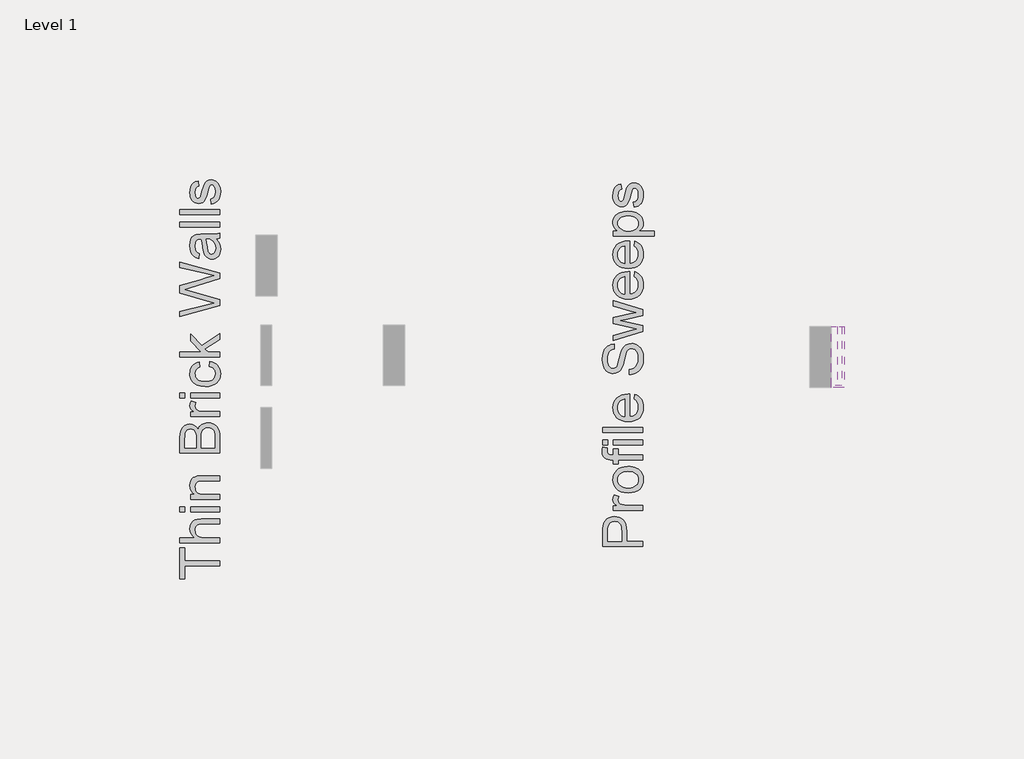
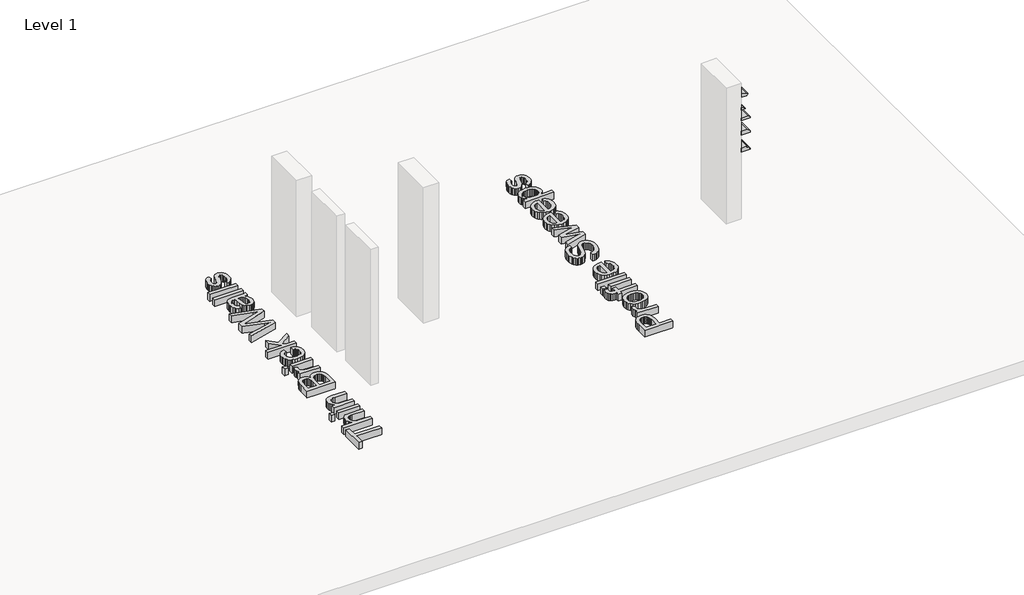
# One storey, part 2 of 2: 7 proxies.
"""IFC4 building model written with IfcOpenShell, lengths in millimetres."""

from ifc_helpers import new_model, si_unit, point, frame, frame_2d, origin, origin_with_axes, place, context, project, spatial, polyline, circle_curve, trimmed, segment, composite_curve, outline, extrude, element, save

model = new_model("IFC4")

# Units and contexts
model_context = context("Model", 3, world=origin())
ifc_project = project(units=[si_unit("LENGTHUNIT", "METRE", prefix="MILLI")], contexts=[model_context])

# Site, building, storey
site = spatial("IfcSite", under=ifc_project)
building = spatial("IfcBuilding", under=site)
storey = spatial("IfcBuildingStorey", under=building, Name="Level 1", Elevation=0.0)

# Proxies
placement = place(None, origin())
element("IfcBuildingElementProxy", 1, Name="Wall_Sweep_Sloped-Sill-Unit_SL2_Glen-Gery", ObjectType="Wall_Sweep_Sloped-Sill-Unit_SL2_Glen-Gery", at=placement, inside=storey, context=model_context, shape_type="SweptSolid", body=[
    extrude(outline(composite_curve([segment(polyline([(2711.45, -7149.5312596), (2711.45, -7020.9437596)]), True, "CONTINUOUS"), segment(trimmed(circle_curve(frame_2d((2738.4374742, -7020.9810586)), 26.9875), [point((2711.45, -7020.9437596))], [point((2764.6582211, -7014.5937596))], False, "CARTESIAN"), True, "CONTINUOUS"), segment(polyline([(2764.6582211, -7014.5937596), (2794.0, -7149.5312596), (2711.45, -7149.5312596)]), True, "CONTINUOUS")], self_intersect=False)), frame((0.0, 14330.8088679, 0.0), z_axis=(0.0, 1.0, 0.0), x_axis=(0.0, 0.0, 1.0)), (0.0, 0.0, 1.0), 889.0),
])
element("IfcBuildingElementProxy", 2, Name="Wall_Sweep_Water-Table-Unit_W2-S_Glen-Gery", ObjectType="Wall_Sweep_Water-Table-Unit_W2-S_Glen-Gery", at=placement, inside=storey, context=model_context, shape_type="SweptSolid", body=[
    extrude(outline(composite_curve([segment(polyline([(2495.55, -7149.5312596), (2438.4, -7149.5312596), (2438.4, -7057.4562596), (2457.45, -7057.4562596)]), True, "CONTINUOUS"), segment(trimmed(circle_curve(frame_2d((2495.55, -7057.4562596)), 38.1), [point((2457.45, -7057.4562596))], [point((2495.55, -7095.5562596))], True, "CARTESIAN"), True, "CONTINUOUS"), segment(polyline([(2495.55, -7095.5562596), (2495.55, -7149.5312596)]), True, "CONTINUOUS")], self_intersect=False)), frame((0.0, 14305.4088679, 0.0), z_axis=(0.0, 1.0, 0.0), x_axis=(0.0, 0.0, 1.0)), (0.0, 0.0, 1.0), 914.4),
])
element("IfcBuildingElementProxy", 3, Name="Wall_Sweep_Water-Table-Unit_W3-H_Glen-Gery", ObjectType="Wall_Sweep_Water-Table-Unit_W3-H_Glen-Gery", at=placement, inside=storey, context=model_context, shape_type="SweptSolid", body=[
    extrude(outline(polyline([(2266.95, -7149.5312596), (2209.8, -7149.5312596), (2209.8, -6955.8562596), (2228.85, -6955.8562596), (2266.95, -6993.9562596), (2266.95, -7149.5312596)])), frame((0.0, 14305.4088679, 0.0), z_axis=(0.0, 1.0, 0.0), x_axis=(0.0, 0.0, 1.0)), (0.0, 0.0, 1.0), 914.4),
])
element("IfcBuildingElementProxy", 4, Name="Wall_Sweep_Water-Table-Unit_W9-R_Glen-Gery", ObjectType="Wall_Sweep_Water-Table-Unit_W9-R_Glen-Gery", at=placement, inside=storey, context=model_context, shape_type="SweptSolid", body=[
    extrude(outline(polyline([(1971.675, -7149.5312596), (1879.6, -7149.5312596), (1879.6, -6955.8562596), (1911.35, -6955.8562596), (1971.675, -7016.1812596), (1971.675, -7149.5312596)])), frame((0.0, 14305.4088679, 0.0), z_axis=(0.0, 1.0, 0.0), x_axis=(0.0, 0.0, 1.0)), (0.0, 0.0, 1.0), 914.4),
])
element("IfcBuildingElementProxy", 5, Name="Wall_Sweep_Water-Table-Unit_W12-R_Glen-Gery", ObjectType="Wall_Sweep_Water-Table-Unit_W12-R_Glen-Gery", at=placement, inside=storey, context=model_context, shape_type="SweptSolid", body=[
    extrude(outline(composite_curve([segment(polyline([(1590.675, -7149.5312596), (1498.6, -7149.5312596), (1498.6, -6955.8562596), (1517.65, -6955.8562596), (1517.65, -6968.5562596)]), True, "CONTINUOUS"), segment(trimmed(circle_curve(frame_2d((1514.4750682, -7025.6180008)), 57.15), [point((1517.65, -6968.5562596))], [point((1571.625, -7025.7062596))], False, "CARTESIAN"), True, "CONTINUOUS"), segment(polyline([(1571.625, -7025.7062596), (1590.675, -7025.7062596), (1590.675, -7149.5312596)]), True, "CONTINUOUS")], self_intersect=False)), frame((0.0, 14305.4088679, 0.0), z_axis=(0.0, 1.0, 0.0), x_axis=(0.0, 0.0, 1.0)), (0.0, 0.0, 1.0), 914.4),
])
element("IfcBuildingElementProxy", 6, Name="24\" Arial", ObjectType="24\" Arial", at=placement, inside=storey, context=model_context, shape_type="SweptSolid", body=[
    extrude(outline(polyline([(-16319.5482728, 11625.3995473), (-16844.7421189, 11625.3995473), (-16844.7421189, 11428.451855), (-16919.7698112, 11428.451855), (-16919.7698112, 11897.3749319), (-16844.7421189, 11897.3749319), (-16844.7421189, 11700.4272396), (-16319.5482728, 11700.4272396), (-16319.5482728, 11625.3995473)])), origin_with_axes(), (0.0, 0.0, 1.0), 152.4),
    extrude(outline(polyline([(-16319.5482728, 11972.4026242), (-16919.7698112, 11972.4026242), (-16919.7698112, 12047.4303165), (-16699.0828882, 12047.4303165), (-16729.9841862, 12074.9887059), (-16752.056542, 12105.9357973), (-16765.2999555, 12140.2715906), (-16769.7144266, 12177.9960858), (-16764.8969747, 12223.313105), (-16750.4446189, 12262.2557011), (-16727.4930324, 12292.9188742), (-16697.1778882, 12313.3976242), (-16655.5243305, 12324.9375281), (-16598.5575036, 12328.7841627), (-16319.5482728, 12328.7841627), (-16319.5482728, 12253.7564704), (-16590.7909651, 12253.7564704), (-16616.1238016, 12252.2636098), (-16637.756542, 12247.7850281), (-16655.6891862, 12240.3207252), (-16669.9217343, 12229.8707011), (-16680.7564218, 12216.6822396), (-16688.4954843, 12201.0026242), (-16693.1389218, 12182.831855), (-16694.6867343, 12162.1699319), (-16690.5103882, 12130.4626723), (-16677.9813497, 12100.6970473), (-16658.3085612, 12076.0419511), (-16632.7009651, 12059.6662781), (-16598.6674074, 12050.4893069), (-16553.7167343, 12047.4303165), (-16319.5482728, 12047.4303165), (-16319.5482728, 11972.4026242)])), origin_with_axes(), (0.0, 0.0, 1.0), 152.4),
    extrude(outline(polyline([(-16319.5482728, 12431.9472396), (-16760.3359651, 12431.9472396), (-16760.3359651, 12506.9749319), (-16319.5482728, 12506.9749319), (-16319.5482728, 12431.9472396)])), origin_with_axes(), (0.0, 0.0, 1.0), 152.4),
    extrude(outline(polyline([(-16844.7421189, 12431.9472396), (-16919.7698112, 12431.9472396), (-16919.7698112, 12506.9749319), (-16844.7421189, 12506.9749319), (-16844.7421189, 12431.9472396)])), origin_with_axes(), (0.0, 0.0, 1.0), 152.4),
    extrude(outline(polyline([(-16319.5482728, 12619.5164704), (-16760.3359651, 12619.5164704), (-16760.3359651, 12694.5441627), (-16698.7898112, 12694.5441627), (-16729.8193305, 12720.6096915), (-16751.9832728, 12751.9139704), (-16765.2816382, 12788.4569992), (-16769.7144266, 12830.2387781), (-16766.1425516, 12867.2214223), (-16755.4269266, 12901.0901242), (-16738.9047151, 12929.3354127), (-16717.9130805, 12949.4478165), (-16692.5069747, 12963.0942108), (-16662.7413497, 12971.9414704), (-16590.2048112, 12975.8980088), (-16319.5482728, 12975.8980088), (-16319.5482728, 12900.8703165), (-16580.0936574, 12900.8703165), (-16618.8897151, 12898.7088742), (-16646.4755805, 12892.2245473), (-16666.2399555, 12880.2633454), (-16681.571542, 12861.6712781), (-16691.4079362, 12837.8404608), (-16694.6867343, 12810.1630088), (-16692.8458449, 12787.3808574), (-16687.3231766, 12766.2197877), (-16678.1187295, 12746.6797997), (-16665.2325036, 12728.7608934), (-16647.1991141, 12713.7910737), (-16622.5531766, 12703.0983454), (-16591.2946911, 12696.6827083), (-16553.4236574, 12694.5441627), (-16319.5482728, 12694.5441627), (-16319.5482728, 12619.5164704)])), origin_with_axes(), (0.0, 0.0, 1.0), 152.4),
    extrude(outline(polyline([(-16319.5482728, 13322.9010858), (-16919.7698112, 13322.9010858), (-16919.7698112, 13551.9407011), (-16915.3553401, 13614.9339223), (-16902.1119266, 13664.1158934), (-16892.0969387, 13684.1092348), (-16879.7098593, 13701.8129127), (-16864.9506887, 13717.2269271), (-16847.8194266, 13730.3512781), (-16810.3055805, 13748.3205569), (-16771.0332728, 13754.3103165), (-16734.8932247, 13749.2730569), (-16700.9146189, 13734.1612781), (-16671.1856286, 13708.8650761), (-16647.7944266, 13673.2745473), (-16638.1412055, 13695.9193189), (-16625.5938497, 13715.7890184), (-16610.1523593, 13732.8836458), (-16591.8167343, 13747.2032011), (-16571.1456526, 13758.518718), (-16548.697792, 13766.60123), (-16524.4731526, 13771.4507372), (-16498.4717343, 13773.0672396), (-16456.6166862, 13768.6527684), (-16417.8023112, 13755.409355), (-16384.7945228, 13735.64498), (-16360.3592343, 13711.6676242), (-16342.6647151, 13682.30498), (-16329.8792343, 13646.3847396), (-16322.1310132, 13602.7345954), (-16319.5482728, 13550.1822396), (-16319.5482728, 13322.9010858)]), holes=[polyline([(-16394.5759651, 13397.9287781), (-16394.5759651, 13551.7941627), (-16397.5067343, 13607.4787781), (-16404.0093786, 13633.3244992), (-16413.8457728, 13654.5908934), (-16427.9317824, 13671.8824319), (-16447.1832728, 13685.8035858), (-16470.7393305, 13694.9805569), (-16497.739042, 13698.0395473), (-16529.0982728, 13694.449355), (-16556.0613497, 13683.6787781), (-16577.1445709, 13664.8669031), (-16590.8642343, 13637.1528165), (-16598.3926478, 13597.8988261), (-16600.9021189, 13544.4672396), (-16600.9021189, 13397.9287781), (-16394.5759651, 13397.9287781)]), polyline([(-16675.9298112, 13397.9287781), (-16675.9298112, 13534.9422396), (-16677.5417343, 13582.8603165), (-16682.3775036, 13614.9522396), (-16693.4961093, 13642.9594031), (-16710.146542, 13663.0901242), (-16732.0723593, 13675.2344992), (-16759.0171189, 13679.2826242), (-16785.1742343, 13675.5092588), (-16807.9609651, 13664.1891627), (-16825.7470709, 13645.8352204), (-16836.9023112, 13620.9603165), (-16842.782167, 13582.7870473), (-16844.7421189, 13524.5380088), (-16844.7421189, 13397.9287781), (-16675.9298112, 13397.9287781)])]), origin_with_axes(), (0.0, 0.0, 1.0), 152.4),
    extrude(outline(polyline([(-16319.5482728, 13866.851855), (-16760.3359651, 13866.851855), (-16760.3359651, 13932.5010858), (-16695.1263497, 13932.5010858), (-16732.9332728, 13956.7532011), (-16755.2071189, 13979.1003165), (-16766.0875997, 14001.5207011), (-16769.7144266, 14025.9926242), (-16763.9261574, 14063.3599319), (-16746.5613497, 14101.3133934), (-16679.3001959, 14076.2553165), (-16690.8400997, 14049.8783934), (-16694.6867343, 14023.5014704), (-16690.9866382, 14001.0994031), (-16679.8863497, 13981.0785858), (-16662.2284651, 13964.9044031), (-16638.8555805, 13954.0422396), (-16596.9455805, 13944.9202204), (-16551.2255805, 13941.8795473), (-16319.5482728, 13941.8795473), (-16319.5482728, 13866.851855)])), origin_with_axes(), (0.0, 0.0, 1.0), 152.4),
    extrude(outline(polyline([(-16319.5482728, 14148.2057011), (-16760.3359651, 14148.2057011), (-16760.3359651, 14223.2333934), (-16319.5482728, 14223.2333934), (-16319.5482728, 14148.2057011)])), origin_with_axes(), (0.0, 0.0, 1.0), 152.4),
    extrude(outline(polyline([(-16844.7421189, 14148.2057011), (-16919.7698112, 14148.2057011), (-16919.7698112, 14223.2333934), (-16844.7421189, 14223.2333934), (-16844.7421189, 14148.2057011)])), origin_with_axes(), (0.0, 0.0, 1.0), 152.4),
    extrude(outline(polyline([(-16478.9821189, 14617.1287781), (-16469.6036574, 14692.1564704), (-16434.200881, 14683.9961098), (-16402.8737055, 14671.238105), (-16375.622131, 14653.8824559), (-16352.4461574, 14631.9291627), (-16333.950256, 14606.3032492), (-16320.7388978, 14577.9297396), (-16312.8120829, 14546.8086338), (-16310.1698112, 14512.9399319), (-16313.8561694, 14470.8604968), (-16324.9152439, 14433.1314223), (-16343.3470348, 14399.7527083), (-16369.151542, 14370.724355), (-16401.8433569, 14347.2278285), (-16440.9370709, 14330.4445954), (-16486.4326838, 14320.3746555), (-16538.3301959, 14317.0180088), (-16605.0967824, 14322.7513261), (-16635.1417463, 14329.9179728), (-16662.9611574, 14339.9512781), (-16687.9963377, 14352.9199319), (-16709.6886093, 14368.8926242), (-16728.0379723, 14387.869355), (-16743.0444266, 14409.8501242), (-16754.7125516, 14433.841218), (-16763.0469266, 14458.8489223), (-16768.0475516, 14484.8732372), (-16769.7144266, 14511.9141627), (-16767.4247632, 14545.2012901), (-16760.5557728, 14575.3103646), (-16749.1074555, 14602.2413862), (-16733.0798112, 14625.994355), (-16712.8391862, 14646.1662901), (-16688.7519266, 14662.3542108), (-16660.8180324, 14674.558117), (-16629.0375036, 14682.7780088), (-16619.659042, 14607.7503165), (-16652.3920709, 14594.1405569), (-16675.856542, 14572.9474319), (-16689.9791862, 14545.3432492), (-16694.6867343, 14512.5003165), (-16692.3695949, 14487.0072035), (-16685.4181766, 14464.0144031), (-16673.8324795, 14443.5219151), (-16657.6125036, 14425.5297396), (-16636.3827439, 14410.8804728), (-16609.7676959, 14400.4167108), (-16577.7673593, 14394.1384535), (-16540.3817343, 14392.0457011), (-16502.4328521, 14394.0926603), (-16470.0615901, 14400.2335377), (-16443.2679483, 14410.4683333), (-16422.0519266, 14424.7970473), (-16405.9281165, 14442.4320353), (-16394.4111093, 14462.5856531), (-16387.500905, 14485.2579007), (-16385.1975036, 14510.4487781), (-16390.9491382, 14549.2997877), (-16398.1386814, 14566.1013382), (-16408.204042, 14581.1535858), (-16421.2551237, 14594.0352324), (-16437.4018305, 14604.32498), (-16456.6441622, 14612.0228285), (-16478.9821189, 14617.1287781)])), origin_with_axes(), (0.0, 0.0, 1.0), 152.4),
    extrude(outline(polyline([(-16319.5482728, 14757.8057011), (-16919.7698112, 14757.8057011), (-16919.7698112, 14832.8333934), (-16597.2386574, 14832.8333934), (-16760.3359651, 15001.0595473), (-16760.3359651, 15104.8087781), (-16595.1871189, 14934.5310858), (-16319.5482728, 15114.1872396), (-16319.5482728, 15026.5572396), (-16543.0194266, 14880.7514704), (-16496.5667343, 14832.8333934), (-16319.5482728, 14832.8333934), (-16319.5482728, 14757.8057011)])), origin_with_axes(), (0.0, 0.0, 1.0), 152.4),
    extrude(outline(polyline([(-16319.5482728, 15531.0891627), (-16919.7698112, 15367.4057011), (-16919.7698112, 15444.7780088), (-16525.2882728, 15539.7349319), (-16403.5148112, 15569.0426242), (-16511.2205805, 15600.401855), (-16919.7698112, 15719.3910858), (-16919.7698112, 15830.906855), (-16623.6155805, 15917.3645473), (-16513.7117343, 15954.4021434), (-16403.5148112, 15981.6949319), (-16521.7713497, 16010.1233934), (-16919.7698112, 16105.9595473), (-16919.7698112, 16183.331855), (-16319.5482728, 16019.501855), (-16319.5482728, 15939.3453165), (-16782.6098112, 15795.4445473), (-16847.2332728, 15775.3687781), (-16769.4213497, 15752.801855), (-16319.5482728, 15621.6499319), (-16319.5482728, 15531.0891627)])), origin_with_axes(), (0.0, 0.0, 1.0), 152.4),
    extrude(outline(polyline([(-16375.819042, 16530.3349319), (-16345.0825997, 16494.4879608), (-16324.9701959, 16457.5785858), (-16313.8699074, 16418.7642108), (-16310.1698112, 16377.2022396), (-16312.3953641, 16343.7960497), (-16319.0720228, 16314.5020954), (-16330.1997872, 16289.3203766), (-16345.7786574, 16268.2508934), (-16364.8194987, 16251.6141987), (-16386.3331766, 16239.7308454), (-16410.3196911, 16232.6008333), (-16436.779042, 16230.2241627), (-16467.8818305, 16233.814355), (-16496.1271189, 16244.5849319), (-16520.3059651, 16261.19873), (-16539.2094266, 16282.3185858), (-16553.4969266, 16307.1385377), (-16563.8278882, 16334.8526242), (-16575.1113497, 16399.7691627), (-16586.9809651, 16476.4820473), (-16600.9021189, 16529.8953165), (-16617.6075036, 16530.3349319), (-16651.091542, 16525.1694511), (-16663.4923593, 16518.7126002), (-16672.999042, 16509.6730088), (-16682.4874074, 16494.0483454), (-16689.2648112, 16475.0166627), (-16694.6867343, 16426.7322396), (-16691.0782247, 16382.0380088), (-16680.2526959, 16350.8253165), (-16660.2318786, 16329.540605), (-16629.0375036, 16314.6303165), (-16638.4159651, 16239.6026242), (-16679.4467343, 16252.62623), (-16711.6851959, 16272.0608934), (-16736.340292, 16299.7200281), (-16754.6209651, 16337.4170473), (-16765.9410612, 16383.5217108), (-16769.7144266, 16436.4037781), (-16766.3806766, 16487.1244031), (-16756.3794266, 16527.3308934), (-16741.340917, 16557.6460377), (-16722.8953882, 16578.6926242), (-16700.0903401, 16592.6504127), (-16671.9732728, 16601.6991627), (-16606.324042, 16605.3626242), (-16512.979042, 16605.3626242), (-16382.6330805, 16609.1726242), (-16350.4129362, 16614.814355), (-16319.5482728, 16624.1195473), (-16319.5482728, 16549.091855), (-16345.6321189, 16537.0757011), (-16375.819042, 16530.3349319)]), holes=[polyline([(-16525.8744266, 16530.3349319), (-16513.3820228, 16479.9257011), (-16502.8678882, 16409.2941627), (-16490.7051959, 16344.7439704), (-16482.3891382, 16327.9469992), (-16470.9225036, 16315.5095473), (-16457.1845228, 16307.8162781), (-16442.0544266, 16305.251855), (-16419.7439459, 16310.8386338), (-16401.4632728, 16327.5989704), (-16389.2639459, 16355.1665184), (-16385.1975036, 16393.1749319), (-16389.6852439, 16433.4730088), (-16403.1484651, 16469.081855), (-16422.9861093, 16497.9499319), (-16446.5971189, 16518.0257011), (-16470.9225036, 16526.9279127), (-16504.6263497, 16529.8953165), (-16525.8744266, 16530.3349319)])]), origin_with_axes(), (0.0, 0.0, 1.0), 152.4),
    extrude(outline(polyline([(-16319.5482728, 16708.5257011), (-16919.7698112, 16708.5257011), (-16919.7698112, 16783.5533934), (-16319.5482728, 16783.5533934), (-16319.5482728, 16708.5257011)])), origin_with_axes(), (0.0, 0.0, 1.0), 152.4),
    extrude(outline(polyline([(-16319.5482728, 16896.0949319), (-16919.7698112, 16896.0949319), (-16919.7698112, 16971.1226242), (-16319.5482728, 16971.1226242), (-16319.5482728, 16896.0949319)])), origin_with_axes(), (0.0, 0.0, 1.0), 152.4),
    extrude(outline(polyline([(-16450.8467343, 17055.5287781), (-16460.2251959, 17130.5564704), (-16443.1168305, 17135.090004), (-16428.1332728, 17142.3894511), (-16415.2745228, 17152.4548117), (-16404.5405805, 17165.2860858), (-16396.0779843, 17180.9199079), (-16390.0332728, 17199.3929127), (-16385.1975036, 17244.8564704), (-16389.630292, 17289.7705088), (-16395.1712776, 17307.2269031), (-16402.9286574, 17321.3495473), (-16422.1984651, 17340.0332011), (-16432.9873593, 17344.7041146), (-16444.5455805, 17346.2610858), (-16454.6750516, 17344.6949559), (-16463.6688497, 17339.9965665), (-16478.2494266, 17321.2030088), (-16487.7744266, 17293.1042588), (-16499.644042, 17243.9772396), (-16519.4450516, 17175.5071434), (-16536.3519266, 17130.9960858), (-16554.7974555, 17102.4027684), (-16579.2144266, 17081.6858934), (-16608.0458689, 17069.1019031), (-16639.7348112, 17064.9072396), (-16668.8043786, 17068.2776242), (-16695.6392343, 17078.3887781), (-16719.1769747, 17094.3248358), (-16738.3551959, 17115.1699319), (-16750.4263016, 17135.8868069), (-16760.5557728, 17162.8682011), (-16767.4247632, 17194.0625761), (-16769.7144266, 17227.4183934), (-16766.0326478, 17276.2523358), (-16754.9873112, 17318.711855), (-16737.6591382, 17352.8553165), (-16715.1288497, 17376.7410858), (-16685.7295709, 17392.5672396), (-16647.7944266, 17402.531855), (-16638.4159651, 17327.5041627), (-16662.0269747, 17318.0341146), (-16679.8130805, 17299.2955088), (-16690.9683209, 17271.1051723), (-16694.6867343, 17233.2799319), (-16691.1331766, 17190.1976242), (-16680.4725036, 17161.4760858), (-16665.0859651, 17145.3202204), (-16647.3548112, 17139.9349319), (-16635.8149074, 17142.1696434), (-16625.5205805, 17148.8737781), (-16616.325292, 17160.3404127), (-16608.9617343, 17176.8626242), (-16592.989042, 17241.4860858), (-16557.6732728, 17351.6097396), (-16540.7847151, 17380.6976242), (-16517.6682728, 17402.7516627), (-16488.2506766, 17416.6544992), (-16452.4586574, 17421.2887781), (-16415.4576959, 17415.8485377), (-16380.6548112, 17399.5278165), (-16350.7792824, 17372.9494031), (-16328.5603882, 17336.7360858), (-16314.7674555, 17292.994355), (-16310.1698112, 17243.8307011), (-16312.3862055, 17203.4501963), (-16319.0353882, 17168.1802204), (-16330.1173593, 17138.0207733), (-16345.6321189, 17112.971855), (-16365.5063978, 17092.5114223), (-16389.6669266, 17076.1174319), (-16418.1137055, 17063.7898838), (-16450.8467343, 17055.5287781)])), origin_with_axes(), (0.0, 0.0, 1.0), 152.4),
])
element("IfcBuildingElementProxy", 7, Name="24\" Arial", ObjectType="24\" Arial", at=placement, inside=storey, context=model_context, shape_type="SweptSolid", body=[
    extrude(outline(polyline([(-9975.2010495, 11915.435851), (-10575.422588, 11915.435851), (-10575.422588, 12137.8812356), (-10573.993838, 12189.6825817), (-10569.707588, 12227.562774), (-10559.0285976, 12267.5494567), (-10541.6454726, 12300.4656587), (-10516.7705688, 12326.9708029), (-10483.6162418, 12347.7243125), (-10444.5087899, 12361.1325817), (-10401.7745111, 12365.6020048), (-10364.9292466, 12362.5842284), (-10331.0330688, 12353.530899), (-10300.0859774, 12338.4420168), (-10272.0879726, 12317.3175817), (-10248.8799438, 12288.3167043), (-10232.3027803, 12249.5984952), (-10222.3564822, 12201.1629543), (-10219.0410495, 12143.0100817), (-10219.0410495, 11990.4635433), (-9975.2010495, 11990.4635433), (-9975.2010495, 11915.435851)]), holes=[polyline([(-10294.0687418, 11990.4635433), (-10294.0687418, 12147.4062356), (-10295.7905688, 12183.4913317), (-10300.9560495, 12213.9346971), (-10309.5651841, 12238.7363317), (-10321.6179726, 12257.8962356), (-10336.793862, 12272.1928942), (-10354.7722995, 12282.4047933), (-10375.5532851, 12288.5319327), (-10399.1368188, 12290.5743125), (-10432.8406649, 12285.7568606), (-10461.2691265, 12271.3045048), (-10482.6637418, 12249.0123413), (-10495.2660495, 12220.6754663), (-10499.1126841, 12191.7341202), (-10500.3948957, 12145.647774), (-10500.3948957, 11990.4635433), (-10294.0687418, 11990.4635433)])]), origin_with_axes(), (0.0, 0.0, 1.0), 152.4),
    extrude(outline(polyline([(-9975.2010495, 12459.3866202), (-10415.9887418, 12459.3866202), (-10415.9887418, 12525.035851), (-10350.7791265, 12525.035851), (-10388.5860495, 12549.2879663), (-10410.8598957, 12571.6350817), (-10421.7403765, 12594.0554663), (-10425.3672034, 12618.5273894), (-10419.5789341, 12655.8946971), (-10402.2141265, 12693.8481587), (-10334.9529726, 12668.7900817), (-10346.4928765, 12642.4131587), (-10350.3395111, 12616.0362356), (-10346.6394149, 12593.6341683), (-10335.5391265, 12573.613351), (-10317.8812418, 12557.4391683), (-10294.5083572, 12546.5770048), (-10252.5983572, 12537.4549856), (-10206.8783572, 12534.4143125), (-9975.2010495, 12534.4143125), (-9975.2010495, 12459.3866202)])), origin_with_axes(), (0.0, 0.0, 1.0), 152.4),
    extrude(outline(polyline([(-10195.5948957, 12721.9835433), (-10252.6807851, 12726.0408269), (-10301.8719149, 12738.2126779), (-10343.1682851, 12758.4990962), (-10376.5698957, 12786.9000817), (-10397.9187178, 12815.493399), (-10413.1678765, 12847.0541202), (-10422.3173716, 12881.5822452), (-10425.3672034, 12919.077774), (-10421.6533692, 12960.4703101), (-10410.5118668, 12997.897149), (-10391.9426962, 13031.3582909), (-10365.9458572, 13060.8537356), (-10333.4005808, 13084.9272572), (-10295.1860976, 13102.1226298), (-10251.3024077, 13112.4398534), (-10201.7495111, 13115.8789279), (-10161.588814, 13114.3585913), (-10125.9524918, 13109.7975817), (-10094.8405447, 13102.195899), (-10068.2529726, 13091.5535433), (-10045.2876481, 13078.0033149), (-10025.0424438, 13061.6780144), (-10007.5173596, 13042.5776418), (-9992.7123957, 13020.7021971), (-9980.9481048, 12996.9034351), (-9972.5450399, 12972.0331106), (-9967.503201, 12946.0912236), (-9965.822588, 12919.077774), (-9969.5226841, 12877.0807668), (-9980.6229726, 12839.305899), (-9999.1234534, 12805.7531707), (-10025.0241265, 12776.4225817), (-10057.8853765, 12752.6055024), (-10097.267588, 12735.5933029), (-10143.1707611, 12725.3859832), (-10195.5948957, 12721.9835433)]), holes=[polyline([(-10195.7414341, 12797.0112356), (-10159.3495231, 12799.1818365), (-10127.8391745, 12805.6936394), (-10101.2103885, 12816.5466442), (-10079.4631649, 12831.740851), (-10062.5700279, 12850.2230144), (-10050.5035015, 12870.9398894), (-10043.2635856, 12893.891476), (-10040.8502803, 12919.077774), (-10043.2773236, 12944.135851), (-10050.5584534, 12966.995851), (-10062.6936697, 12987.657774), (-10079.6829726, 13006.1216202), (-10101.6454245, 13021.3158269), (-10128.700088, 13032.1688317), (-10160.846963, 13038.6806346), (-10198.0860495, 13040.8512356), (-10233.3239702, 13038.6668966), (-10264.0100399, 13032.1138798), (-10290.1442587, 13021.1921851), (-10311.7266265, 13005.9018125), (-10328.6197635, 12987.3692764), (-10340.6862899, 12966.7210913), (-10347.9262058, 12943.9572572), (-10350.3395111, 12919.077774), (-10347.9353644, 12893.891476), (-10340.7229245, 12870.9398894), (-10328.7021914, 12850.2230144), (-10311.8731649, 12831.740851), (-10290.1900519, 12816.5466442), (-10263.6070591, 12805.6936394), (-10232.1241866, 12799.1818365), (-10195.7414341, 12797.0112356)])]), origin_with_axes(), (0.0, 0.0, 1.0), 152.4),
    extrude(outline(polyline([(-9975.2010495, 13219.0420048), (-10340.9610495, 13219.0420048), (-10340.9610495, 13153.392774), (-10415.9887418, 13153.392774), (-10415.9887418, 13219.0420048), (-10460.3898957, 13219.0420048), (-10497.1344149, 13221.020274), (-10522.9618188, 13226.9550817), (-10547.9099918, 13242.0485433), (-10567.6560495, 13265.3481587), (-10580.5147995, 13297.9529663), (-10584.8010495, 13340.9620048), (-10582.7495111, 13373.5301779), (-10576.5948957, 13409.3954663), (-10506.2564341, 13398.4050817), (-10509.7733572, 13355.1762356), (-10506.6594149, 13326.6561875), (-10497.317588, 13307.9175817), (-10479.4765303, 13297.5316683), (-10450.8648957, 13294.0696971), (-10415.9887418, 13294.0696971), (-10415.9887418, 13378.475851), (-10340.9610495, 13378.475851), (-10340.9610495, 13294.0696971), (-9975.2010495, 13294.0696971), (-9975.2010495, 13219.0420048)])), origin_with_axes(), (0.0, 0.0, 1.0), 152.4),
    extrude(outline(polyline([(-10500.3948957, 13444.1250817), (-10575.422588, 13444.1250817), (-10575.422588, 13519.152774), (-10500.3948957, 13519.152774), (-10500.3948957, 13444.1250817)])), origin_with_axes(), (0.0, 0.0, 1.0), 152.4),
    extrude(outline(polyline([(-9975.2010495, 13444.1250817), (-10415.9887418, 13444.1250817), (-10415.9887418, 13519.152774), (-9975.2010495, 13519.152774), (-9975.2010495, 13444.1250817)])), origin_with_axes(), (0.0, 0.0, 1.0), 152.4),
    extrude(outline(polyline([(-9975.2010495, 13631.6943125), (-10575.422588, 13631.6943125), (-10575.422588, 13706.7220048), (-9975.2010495, 13706.7220048), (-9975.2010495, 13631.6943125)])), origin_with_axes(), (0.0, 0.0, 1.0), 152.4),
    extrude(outline(polyline([(-10106.4995111, 14127.8735433), (-10097.1210495, 14201.435851), (-10067.6576601, 14190.1569688), (-10041.6928765, 14174.9307067), (-10019.2266986, 14155.7570649), (-10000.2591265, 14132.6360433), (-9985.1931409, 14105.8057668), (-9974.4317226, 14075.5043606), (-9967.9748716, 14041.7318245), (-9965.822588, 14004.4881587), (-9969.5364221, 13957.9347212), (-9980.6779245, 13916.4551779), (-9999.2470952, 13880.0495288), (-10025.2439341, 13848.717774), (-10057.9449077, 13823.5223173), (-10096.6264822, 13805.5255625), (-10141.2886577, 13794.7275096), (-10191.9314341, 13791.1281587), (-10244.2914582, 13794.7641442), (-10290.4419149, 13805.672101), (-10330.3828043, 13823.8520288), (-10364.1141265, 13849.3039279), (-10390.9123476, 13880.5532548), (-10410.0539341, 13916.1254663), (-10421.5388861, 13956.0205625), (-10425.3672034, 14000.2385433), (-10421.5480447, 14043.0323534), (-10410.0905688, 14081.7322452), (-10390.9947755, 14116.3382188), (-10364.2606649, 14146.850274), (-10330.602612, 14171.7572332), (-10290.7349918, 14189.5479183), (-10244.6578043, 14200.2223293), (-10192.3710495, 14203.7804663), (-10172.1487418, 14203.340851), (-10172.1487418, 13866.155851), (-10142.2091024, 13870.5016322), (-10115.9878765, 13879.1428221), (-10093.485064, 13892.0794207), (-10074.7006649, 13909.3114279), (-10059.8911216, 13929.8863438), (-10049.3128765, 13952.8516683), (-10042.9659293, 13978.2074014), (-10040.8502803, 14005.9535433), (-10044.7701841, 14045.885274), (-10056.5298957, 14079.515851), (-10076.8621072, 14106.845274), (-10106.4995111, 14127.8735433)]), holes=[polyline([(-10247.1764341, 13866.155851), (-10247.1764341, 14128.752774), (-10286.815088, 14118.6049856), (-10302.4031168, 14109.8767885), (-10315.1702803, 14098.7123894), (-10330.5568188, 14078.2519567), (-10341.5472034, 14054.9706587), (-10348.1414341, 14028.8684952), (-10350.3395111, 13999.9454663), (-10348.5856289, 13973.5639639), (-10343.3239822, 13949.3713798), (-10334.5545712, 13927.3677139), (-10322.2773957, 13907.5529663), (-10307.0602923, 13890.9254303), (-10289.4710976, 13878.483399), (-10269.5098116, 13870.2268726), (-10247.1764341, 13866.155851)])]), origin_with_axes(), (0.0, 0.0, 1.0), 152.4),
    extrude(outline(polyline([(-10181.5272034, 14494.512774), (-10181.5272034, 14569.5404663), (-10139.891963, 14578.149601), (-10106.4262418, 14593.7193125), (-10079.8661457, 14618.0080625), (-10058.9477803, 14652.7743125), (-10045.3746553, 14695.2704663), (-10040.8502803, 14742.7489279), (-10044.2756168, 14784.549024), (-10054.5516265, 14821.1470048), (-10070.8173957, 14850.802726), (-10092.2120111, 14871.7760433), (-10116.7755207, 14884.2501298), (-10142.5479726, 14888.4081587), (-10167.6610015, 14885.2942163), (-10189.3670111, 14875.9523894), (-10207.8858091, 14856.9756587), (-10223.4372034, 14824.9570048), (-10252.0854726, 14715.7125817), (-10271.0438861, 14644.0003221), (-10289.0864341, 14598.1154663), (-10314.3276841, 14560.766476), (-10344.917588, 14534.2979663), (-10380.1967226, 14518.5267644), (-10419.5056649, 14513.2696971), (-10441.848201, 14514.8953582), (-10463.4488861, 14519.7723413), (-10484.3077202, 14527.9006466), (-10504.4247034, 14539.280274), (-10522.9801361, 14553.7830024), (-10539.1543188, 14571.2806106), (-10552.9472515, 14591.7730986), (-10564.3589341, 14615.2604663), (-10579.6905207, 14668.0509471), (-10584.8010495, 14726.4831587), (-10579.4523957, 14789.787774), (-10563.4064341, 14845.1793125), (-10551.4543909, 14869.4131106), (-10536.9928765, 14890.6795048), (-10520.0218909, 14908.9784952), (-10500.5414341, 14924.3100817), (-10479.1193428, 14936.5552019), (-10456.3234534, 14945.5947933), (-10432.1537659, 14951.4288558), (-10406.6102803, 14954.0573894), (-10406.6102803, 14879.0296971), (-10430.5510015, 14874.0107548), (-10451.3777803, 14865.2550817), (-10469.0906168, 14852.7626779), (-10483.6895111, 14836.5335433), (-10495.1011938, 14816.2654423), (-10503.2523957, 14791.6561394), (-10508.1431168, 14762.7056346), (-10509.7733572, 14729.4139279), (-10508.1614341, 14695.0598173), (-10503.3256649, 14665.7063317), (-10495.2660495, 14641.3534712), (-10483.982588, 14622.0012356), (-10470.4186216, 14607.2558029), (-10455.5174918, 14596.723351), (-10439.2791986, 14590.4038798), (-10421.7037418, 14588.2973894), (-10406.5828043, 14589.79025), (-10392.8722995, 14594.2688317), (-10380.5722274, 14601.7331346), (-10369.682588, 14612.1831587), (-10359.3699438, 14628.632101), (-10348.9473957, 14654.532774), (-10327.772588, 14734.6893125), (-10307.6601841, 14817.410274), (-10290.1122034, 14867.4531587), (-10262.8926841, 14910.2240721), (-10246.8925159, 14926.7600216), (-10229.2987418, 14940.0629663), (-10210.2029486, 14950.2886034), (-10189.6967226, 14957.5926298), (-10144.4529726, 14963.435851), (-10120.9839221, 14961.755238), (-10098.2017707, 14956.713399), (-10076.1065183, 14948.3103341), (-10054.6981649, 14936.5460433), (-10034.8055688, 14921.6265962), (-10017.257588, 14903.7580625), (-10002.0542226, 14882.9404423), (-9989.1954726, 14859.1737356), (-9978.9698356, 14833.1494207), (-9971.6658091, 14805.558976), (-9965.822588, 14745.6796971), (-9967.3978765, 14707.3003582), (-9972.1237418, 14672.1723413), (-9980.0001841, 14640.2956466), (-9991.0272034, 14611.670274), (-10005.2231168, 14586.1222091), (-10022.6062418, 14563.4774375), (-10043.1765784, 14543.7359591), (-10066.9341265, 14526.897774), (-10093.1095591, 14513.3338077), (-10120.9335495, 14503.4149856), (-10150.4060976, 14497.1413077), (-10181.5272034, 14494.512774)])), origin_with_axes(), (0.0, 0.0, 1.0), 152.4),
    extrude(outline(polyline([(-9975.2010495, 15139.7216202), (-10415.9887418, 15005.6389279), (-10415.9887418, 15083.5973894), (-10158.8137418, 15159.650851), (-10066.9341265, 15182.3643125), (-10155.4433572, 15200.9746971), (-10415.9887418, 15261.4950817), (-10415.9887418, 15350.8835433), (-10156.1760495, 15411.110851), (-10076.0195111, 15427.6696971), (-10160.5722034, 15451.4089279), (-10415.9887418, 15527.6089279), (-10415.9887418, 15605.8604663), (-9975.2010495, 15470.7520048), (-9975.2010495, 15380.0446971), (-10233.6948957, 15322.4550817), (-10314.2910495, 15305.7496971), (-9975.2010495, 15231.4546971), (-9975.2010495, 15139.7216202)])), origin_with_axes(), (0.0, 0.0, 1.0), 152.4),
    extrude(outline(polyline([(-10106.4995111, 15966.0520048), (-10097.1210495, 16039.6143125), (-10067.6576601, 16028.3354303), (-10041.6928765, 16013.1091683), (-10019.2266986, 15993.9355264), (-10000.2591265, 15970.8145048), (-9985.1931409, 15943.9842284), (-9974.4317226, 15913.6828221), (-9967.9748716, 15879.9102861), (-9965.822588, 15842.6666202), (-9969.5364221, 15796.1131827), (-9980.6779245, 15754.6336394), (-9999.2470952, 15718.2279904), (-10025.2439341, 15686.8962356), (-10057.9449077, 15661.7007788), (-10096.6264822, 15643.704024), (-10141.2886577, 15632.9059712), (-10191.9314341, 15629.3066202), (-10244.2914582, 15632.9426058), (-10290.4419149, 15643.8505625), (-10330.3828043, 15662.0304904), (-10364.1141265, 15687.4823894), (-10390.9123476, 15718.7317163), (-10410.0539341, 15754.3039279), (-10421.5388861, 15794.199024), (-10425.3672034, 15838.4170048), (-10421.5480447, 15881.2108149), (-10410.0905688, 15919.9107067), (-10390.9947755, 15954.5166803), (-10364.2606649, 15985.0287356), (-10330.602612, 16009.9356947), (-10290.7349918, 16027.7263798), (-10244.6578043, 16038.4007909), (-10192.3710495, 16041.9589279), (-10172.1487418, 16041.5193125), (-10172.1487418, 15704.3343125), (-10142.2091024, 15708.6800938), (-10115.9878765, 15717.3212837), (-10093.485064, 15730.2578822), (-10074.7006649, 15747.4898894), (-10059.8911216, 15768.0648053), (-10049.3128765, 15791.0301298), (-10042.9659293, 15816.385863), (-10040.8502803, 15844.1320048), (-10044.7701841, 15884.0637356), (-10056.5298957, 15917.6943125), (-10076.8621072, 15945.0237356), (-10106.4995111, 15966.0520048)]), holes=[polyline([(-10247.1764341, 15704.3343125), (-10247.1764341, 15966.9312356), (-10286.815088, 15956.7834471), (-10302.4031168, 15948.05525), (-10315.1702803, 15936.890851), (-10330.5568188, 15916.4304183), (-10341.5472034, 15893.1491202), (-10348.1414341, 15867.0469567), (-10350.3395111, 15838.1239279), (-10348.5856289, 15811.7424255), (-10343.3239822, 15787.5498413), (-10334.5545712, 15765.5461755), (-10322.2773957, 15745.7314279), (-10307.0602923, 15729.1038918), (-10289.4710976, 15716.6618606), (-10269.5098116, 15708.4053341), (-10247.1764341, 15704.3343125)])]), origin_with_axes(), (0.0, 0.0, 1.0), 152.4),
    extrude(outline(polyline([(-10106.4995111, 16425.5966202), (-10097.1210495, 16499.1589279), (-10067.6576601, 16487.8800457), (-10041.6928765, 16472.6537837), (-10019.2266986, 16453.4801418), (-10000.2591265, 16430.3591202), (-9985.1931409, 16403.5288438), (-9974.4317226, 16373.2274375), (-9967.9748716, 16339.4549014), (-9965.822588, 16302.2112356), (-9969.5364221, 16255.6577981), (-9980.6779245, 16214.1782548), (-9999.2470952, 16177.7726058), (-10025.2439341, 16146.440851), (-10057.9449077, 16121.2453942), (-10096.6264822, 16103.2486394), (-10141.2886577, 16092.4505865), (-10191.9314341, 16088.8512356), (-10244.2914582, 16092.4872212), (-10290.4419149, 16103.3951779), (-10330.3828043, 16121.5751058), (-10364.1141265, 16147.0270048), (-10390.9123476, 16178.2763317), (-10410.0539341, 16213.8485433), (-10421.5388861, 16253.7436394), (-10425.3672034, 16297.9616202), (-10421.5480447, 16340.7554303), (-10410.0905688, 16379.4553221), (-10390.9947755, 16414.0612957), (-10364.2606649, 16444.573351), (-10330.602612, 16469.4803101), (-10290.7349918, 16487.2709952), (-10244.6578043, 16497.9454063), (-10192.3710495, 16501.5035433), (-10172.1487418, 16501.0639279), (-10172.1487418, 16163.8789279), (-10142.2091024, 16168.2247091), (-10115.9878765, 16176.865899), (-10093.485064, 16189.8024976), (-10074.7006649, 16207.0345048), (-10059.8911216, 16227.6094207), (-10049.3128765, 16250.5747452), (-10042.9659293, 16275.9304784), (-10040.8502803, 16303.6766202), (-10044.7701841, 16343.608351), (-10056.5298957, 16377.2389279), (-10076.8621072, 16404.568351), (-10106.4995111, 16425.5966202)]), holes=[polyline([(-10247.1764341, 16163.8789279), (-10247.1764341, 16426.475851), (-10286.815088, 16416.3280625), (-10302.4031168, 16407.5998654), (-10315.1702803, 16396.4354663), (-10330.5568188, 16375.9750337), (-10341.5472034, 16352.6937356), (-10348.1414341, 16326.5915721), (-10350.3395111, 16297.6685433), (-10348.5856289, 16271.2870409), (-10343.3239822, 16247.0944567), (-10334.5545712, 16225.0907909), (-10322.2773957, 16205.2760433), (-10307.0602923, 16188.6485072), (-10289.4710976, 16176.206476), (-10269.5098116, 16167.9499495), (-10247.1764341, 16163.8789279)])]), origin_with_axes(), (0.0, 0.0, 1.0), 152.4),
    extrude(outline(polyline([(-9806.3887418, 16576.5312356), (-10415.9887418, 16576.5312356), (-10415.9887418, 16651.5589279), (-10342.4264341, 16651.5589279), (-10378.7130207, 16676.030851), (-10404.6320111, 16703.4335433), (-10420.1834053, 16735.3789279), (-10425.3672034, 16773.4789279), (-10423.5537899, 16799.6452019), (-10418.1135495, 16824.2178702), (-10409.0464822, 16847.1969327), (-10396.352588, 16868.5823894), (-10380.3615784, 16887.907149), (-10361.4031649, 16904.7041202), (-10339.4773476, 16918.9733029), (-10314.5841265, 16930.7146971), (-10259.3024918, 16946.4309471), (-10198.9652803, 16951.6696971), (-10134.7997515, 16945.7532067), (-10105.2585135, 16938.3575938), (-10077.4116265, 16928.0037356), (-10051.9872034, 16914.8335913), (-10029.7133572, 16898.9891202), (-10010.590088, 16880.4703221), (-9994.6173957, 16859.2771971), (-9982.0196673, 16836.4492524), (-9973.0212899, 16813.0259952), (-9967.6222635, 16789.0074255), (-9965.822588, 16764.3935433), (-9970.6400399, 16729.9020529), (-9985.0923957, 16699.1106587), (-10006.9083091, 16672.7520529), (-10033.8164341, 16651.5589279), (-9806.3887418, 16651.5589279), (-9806.3887418, 16576.5312356)]), holes=[polyline([(-10192.0779726, 16651.5589279), (-10155.9196072, 16653.5875697), (-10124.8168188, 16659.6734952), (-10098.7696072, 16669.8167043), (-10077.7779726, 16684.0171971), (-10061.6221072, 16701.1118245), (-10050.0822034, 16719.9374375), (-10043.1582611, 16740.4940361), (-10040.8502803, 16762.7816202), (-10043.240689, 16785.3897572), (-10050.4119149, 16806.3218606), (-10062.3639582, 16825.5779303), (-10079.0968188, 16843.1579663), (-10100.8486216, 16857.8072332), (-10127.8574918, 16868.2709952), (-10160.1234293, 16874.5492524), (-10197.6464341, 16876.6420048), (-10233.4934053, 16874.599625), (-10264.5412418, 16868.4724856), (-10290.7899438, 16858.2605865), (-10312.2395111, 16843.9639279), (-10328.9082611, 16826.8280865), (-10340.8145111, 16808.0986394), (-10347.9582611, 16787.7755865), (-10350.3395111, 16765.8589279), (-10347.8071433, 16744.0109591), (-10340.2100399, 16723.4543606), (-10327.548201, 16704.1891322), (-10309.8216265, 16686.215274), (-10287.2684414, 16671.0531226), (-10260.1267707, 16660.2230144), (-10228.3966144, 16653.7249495), (-10192.0779726, 16651.5589279)])]), origin_with_axes(), (0.0, 0.0, 1.0), 152.4),
    extrude(outline(polyline([(-10106.4995111, 17007.9404663), (-10115.8779726, 17082.9681587), (-10098.7696072, 17087.5016923), (-10083.7860495, 17094.8011394), (-10070.9272995, 17104.8665), (-10060.1933572, 17117.697774), (-10051.7307611, 17133.3315962), (-10045.6860495, 17151.804601), (-10040.8502803, 17197.2681587), (-10045.2830688, 17242.1821971), (-10050.8240543, 17259.6385913), (-10058.5814341, 17273.7612356), (-10077.8512418, 17292.4448894), (-10088.6401361, 17297.1158029), (-10100.1983572, 17298.672774), (-10110.3278284, 17297.1066442), (-10119.3216265, 17292.4082548), (-10133.9022034, 17273.6146971), (-10143.4272034, 17245.5159471), (-10155.2968188, 17196.3889279), (-10175.0978284, 17127.9188317), (-10192.0047034, 17083.407774), (-10210.4502322, 17054.8144567), (-10234.8672034, 17034.0975817), (-10263.6986457, 17021.5135913), (-10295.387588, 17017.3189279), (-10324.4571553, 17020.6893125), (-10351.2920111, 17030.8004663), (-10374.8297515, 17046.736524), (-10394.0079726, 17067.5816202), (-10406.0790784, 17088.2984952), (-10416.2085495, 17115.2798894), (-10423.0775399, 17146.4742644), (-10425.3672034, 17179.8300817), (-10421.6854245, 17228.664024), (-10410.640088, 17271.1235433), (-10393.3119149, 17305.2670048), (-10370.7816265, 17329.152774), (-10341.3823476, 17344.9789279), (-10303.4472034, 17354.9435433), (-10294.0687418, 17279.915851), (-10317.6797515, 17270.4458029), (-10335.4658572, 17251.7071971), (-10346.6210976, 17223.5168606), (-10350.3395111, 17185.6916202), (-10346.7859534, 17142.6093125), (-10336.1252803, 17113.887774), (-10320.7387418, 17097.7319087), (-10303.007588, 17092.3466202), (-10291.4676841, 17094.5813317), (-10281.1733572, 17101.2854663), (-10271.9780688, 17112.752101), (-10264.6145111, 17129.2743125), (-10248.6418188, 17193.897774), (-10213.3260495, 17304.0214279), (-10196.4374918, 17333.1093125), (-10173.3210495, 17355.163351), (-10143.9034534, 17369.0661875), (-10108.1114341, 17373.7004663), (-10071.1104726, 17368.260226), (-10036.307588, 17351.9395048), (-10006.4320591, 17325.3610913), (-9984.2131649, 17289.147774), (-9970.4202322, 17245.4060433), (-9965.822588, 17196.2423894), (-9968.0389822, 17155.8618846), (-9974.6881649, 17120.5919087), (-9985.7701361, 17090.4324615), (-10001.2848957, 17065.3835433), (-10021.1591745, 17044.9231106), (-10045.3197034, 17028.5291202), (-10073.7664822, 17016.2015721), (-10106.4995111, 17007.9404663)])), origin_with_axes(), (0.0, 0.0, 1.0), 152.4),
])

save(model, "model.ifc")
